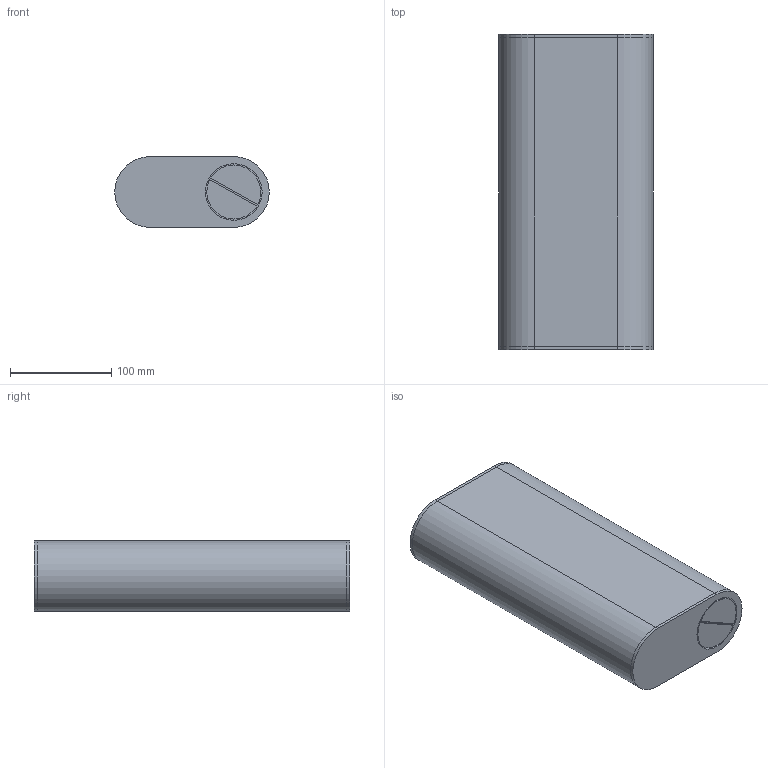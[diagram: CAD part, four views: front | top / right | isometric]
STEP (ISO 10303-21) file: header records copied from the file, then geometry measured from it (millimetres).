
FILE_DESCRIPTION(/* description */ ('Alibre Inc.'),/* implementation_level */ '2;1');
FILE_NAME(/* name */ 'export0',/* time_stamp */ '2018-03-11T19:18:35-04:00',/* author */ (''),/* organization */ (''),/* preprocessor_version */ 'ST-DEVELOPER v14',/* originating_system */ 'Alibre',/* authorisation */ '');
FILE_SCHEMA (('CONFIG_CONTROL_DESIGN'));
Length unit declared in the file: centimetre
Products named in the file (7): ID_1
Bounding box: 152.4 x 311.06 x 69.85 mm (x, y, z)
Volume: 455493.2 mm3; surface area: 262856.2 mm2
Topology: 8 solids, 8 shells, 116 faces, 278 edges, 186 vertices
Faces by surface type: plane 90, cylinder 26
Full cylindrical faces by diameter (mm): 3.175 x2, 9.652 x2, 55.88 x2, 58.928 x2
Entity records: 2946 total; most frequent: CARTESIAN_POINT 396, ORIENTED_EDGE 360, DIRECTION 336, EDGE_CURVE 180, VECTOR 148, LINE 148, VERTEX_POINT 124, AXIS2_PLACEMENT_3D 124
